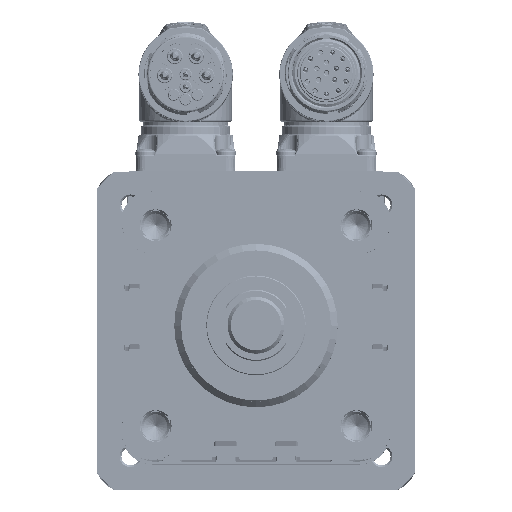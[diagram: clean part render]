
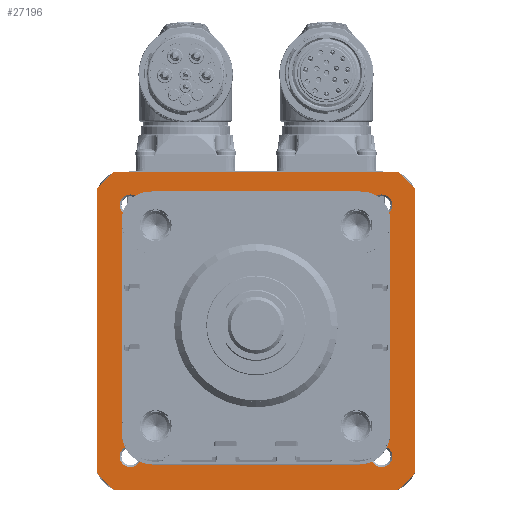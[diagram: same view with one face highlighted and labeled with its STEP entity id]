
A CAD part, top view. The second image highlights one B-rep face of the part: STEP entity #27196.
In plain terms, the highlighted planar face has unit normal (0, 0, 1).
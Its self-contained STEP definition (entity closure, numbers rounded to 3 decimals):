
#25836=DIRECTION('',(-1.,0.,0.));
#25837=VECTOR('',#25836,80.047);
#25838=CARTESIAN_POINT('',(40.024,-44.7,21.));
#25839=LINE('',#25838,#25837);
#25848=DIRECTION('',(0.,1.,0.));
#25849=VECTOR('',#25848,80.047);
#25850=CARTESIAN_POINT('',(-44.7,-40.023,21.));
#25851=LINE('',#25850,#25849);
#25860=DIRECTION('',(1.,0.,0.));
#25861=VECTOR('',#25860,80.048);
#25862=CARTESIAN_POINT('',(-40.024,44.7,21.));
#25863=LINE('',#25862,#25861);
#25872=DIRECTION('',(0.,-1.,0.));
#25873=VECTOR('',#25872,80.049);
#25874=CARTESIAN_POINT('',(44.7,40.024,21.));
#25875=LINE('',#25874,#25873);
#25884=CARTESIAN_POINT('',(0.,0.,21.));
#25885=DIRECTION('',(0.,0.,1.));
#25886=DIRECTION('',(-0.745,-0.667,0.));
#25887=AXIS2_PLACEMENT_3D('',#25884,#25885,#25886);
#25889=CARTESIAN_POINT('',(0.,0.,21.));
#25890=DIRECTION('',(0.,0.,1.));
#25891=DIRECTION('',(-0.667,0.745,0.));
#25892=AXIS2_PLACEMENT_3D('',#25889,#25890,#25891);
#25894=CARTESIAN_POINT('',(0.,0.,21.));
#25895=DIRECTION('',(0.,0.,1.));
#25896=DIRECTION('',(0.745,0.667,0.));
#25897=AXIS2_PLACEMENT_3D('',#25894,#25895,#25896);
#25899=CARTESIAN_POINT('',(0.,0.,21.));
#25900=DIRECTION('',(0.,0.,1.));
#25901=DIRECTION('',(0.667,-0.745,0.));
#25902=AXIS2_PLACEMENT_3D('',#25899,#25900,#25901);
#25904=CARTESIAN_POINT('',(0.,0.,
21.));
#25905=DIRECTION('',(0.,0.,-1.));
#25906=DIRECTION('',(-1.,0.,0.));
#25907=AXIS2_PLACEMENT_3D('',#25904,#25905,#25906);
#25909=CARTESIAN_POINT('',(0.,0.,
21.));
#25910=DIRECTION('',(0.,0.,-1.));
#25911=DIRECTION('',(1.,0.,0.));
#25912=AXIS2_PLACEMENT_3D('',#25909,#25910,#25911);
#25914=CARTESIAN_POINT('',(35.355,-35.355,21.));
#25915=DIRECTION('',(0.,0.,-1.));
#25916=DIRECTION('',(-1.,0.,0.));
#25917=AXIS2_PLACEMENT_3D('',#25914,#25915,#25916);
#25919=CARTESIAN_POINT('',(35.355,-35.355,21.));
#25920=DIRECTION('',(0.,0.,-1.));
#25921=DIRECTION('',(1.,0.,0.));
#25922=AXIS2_PLACEMENT_3D('',#25919,#25920,#25921);
#25924=CARTESIAN_POINT('',(-35.355,-35.355,21.));
#25925=DIRECTION('',(0.,0.,-1.));
#25926=DIRECTION('',(-1.,0.,0.));
#25927=AXIS2_PLACEMENT_3D('',#25924,#25925,#25926);
#25929=CARTESIAN_POINT('',(-35.355,-35.355,21.));
#25930=DIRECTION('',(0.,0.,-1.));
#25931=DIRECTION('',(0.,-1.,0.));
#25932=AXIS2_PLACEMENT_3D('',#25929,#25930,#25931);
#25934=CARTESIAN_POINT('',(-35.355,-35.355,21.));
#25935=DIRECTION('',(0.,0.,-1.));
#25936=DIRECTION('',(1.,0.,0.));
#25937=AXIS2_PLACEMENT_3D('',#25934,#25935,#25936);
#25939=CARTESIAN_POINT('',(-35.355,-35.355,21.));
#25940=DIRECTION('',(0.,0.,-1.));
#25941=DIRECTION('',(0.,1.,0.));
#25942=AXIS2_PLACEMENT_3D('',#25939,#25940,#25941);
#25944=CARTESIAN_POINT('',(-35.355,35.355,21.));
#25945=DIRECTION('',(0.,0.,-1.));
#25946=DIRECTION('',(1.,0.,0.));
#25947=AXIS2_PLACEMENT_3D('',#25944,#25945,#25946);
#25949=CARTESIAN_POINT('',(-35.355,35.355,21.));
#25950=DIRECTION('',(0.,0.,-1.));
#25951=DIRECTION('',(-1.,0.,0.));
#25952=AXIS2_PLACEMENT_3D('',#25949,#25950,#25951);
#25954=CARTESIAN_POINT('',(35.355,35.355,21.));
#25955=DIRECTION('',(0.,0.,-1.));
#25956=DIRECTION('',(-1.,0.,0.));
#25957=AXIS2_PLACEMENT_3D('',#25954,#25955,#25956);
#25959=CARTESIAN_POINT('',(35.355,35.355,21.));
#25960=DIRECTION('',(0.,0.,-1.));
#25961=DIRECTION('',(1.,0.,0.));
#25962=AXIS2_PLACEMENT_3D('',#25959,#25960,#25961);
#25964=CARTESIAN_POINT('',(35.355,35.355,21.));
#25965=DIRECTION('',(0.,0.,-1.));
#25966=DIRECTION('',(0.,1.,0.));
#25967=AXIS2_PLACEMENT_3D('',#25964,#25965,#25966);
#26741=CARTESIAN_POINT('',(-40.024,-44.7,21.));
#26742=VERTEX_POINT('',#26741);
#26743=CARTESIAN_POINT('',(40.024,-44.7,21.));
#26744=VERTEX_POINT('',#26743);
#26745=CARTESIAN_POINT('',(-44.7,-40.023,21.));
#26746=VERTEX_POINT('',#26745);
#26747=CARTESIAN_POINT('',(-44.7,40.023,21.));
#26748=VERTEX_POINT('',#26747);
#26749=CARTESIAN_POINT('',(-40.024,44.7,21.));
#26750=VERTEX_POINT('',#26749);
#26751=CARTESIAN_POINT('',(40.024,44.7,21.));
#26752=VERTEX_POINT('',#26751);
#26753=CARTESIAN_POINT('',(44.7,40.024,21.));
#26754=VERTEX_POINT('',#26753);
#26755=CARTESIAN_POINT('',(44.7,-40.024,21.));
#26756=VERTEX_POINT('',#26755);
#26757=CARTESIAN_POINT('',(32.289,0.,
21.));
#26758=CARTESIAN_POINT('',(-32.289,0.,
21.));
#26759=VERTEX_POINT('',#26757);
#26760=VERTEX_POINT('',#26758);
#26761=CARTESIAN_POINT('',(38.355,-35.355,21.));
#26762=CARTESIAN_POINT('',(32.355,-35.355,21.));
#26763=VERTEX_POINT('',#26761);
#26764=VERTEX_POINT('',#26762);
#26765=CARTESIAN_POINT('',(-32.355,-35.355,21.));
#26766=CARTESIAN_POINT('',(-35.355,-38.355,21.));
#26767=VERTEX_POINT('',#26765);
#26768=VERTEX_POINT('',#26766);
#26769=CARTESIAN_POINT('',(-38.355,-35.355,21.));
#26770=VERTEX_POINT('',#26769);
#26771=CARTESIAN_POINT('',(-35.355,-32.355,21.));
#26772=VERTEX_POINT('',#26771);
#26773=CARTESIAN_POINT('',(-38.355,35.355,21.));
#26774=CARTESIAN_POINT('',(-32.355,35.355,21.));
#26775=VERTEX_POINT('',#26773);
#26776=VERTEX_POINT('',#26774);
#26777=CARTESIAN_POINT('',(38.355,35.355,21.));
#26778=CARTESIAN_POINT('',(32.355,35.355,21.));
#26779=VERTEX_POINT('',#26777);
#26780=VERTEX_POINT('',#26778);
#26781=CARTESIAN_POINT('',(35.355,38.355,21.));
#26782=VERTEX_POINT('',#26781);
#27145=CARTESIAN_POINT('',(0.,0.,21.));
#27146=DIRECTION('',(0.,0.,1.));
#27147=DIRECTION('',(1.,0.,0.));
#27148=AXIS2_PLACEMENT_3D('',#27145,#27146,#27147);
#27149=PLANE('',#27148);
#27150=ORIENTED_EDGE('',*,*,#27041,.T.);
#27151=ORIENTED_EDGE('',*,*,#27056,.F.);
#27152=ORIENTED_EDGE('',*,*,#27070,.T.);
#27153=ORIENTED_EDGE('',*,*,#27084,.F.);
#27154=ORIENTED_EDGE('',*,*,#27098,.T.);
#27155=ORIENTED_EDGE('',*,*,#27112,.F.);
#27156=ORIENTED_EDGE('',*,*,#27126,.T.);
#27157=ORIENTED_EDGE('',*,*,#27139,.F.);
#27158=EDGE_LOOP('',(#27150,#27151,#27152,#27153,#27154,#27155,#27156,#27157));
#27159=FACE_OUTER_BOUND('',#27158,.F.);
#27161=ORIENTED_EDGE('',*,*,#27160,.F.);
#27163=ORIENTED_EDGE('',*,*,#27162,.F.);
#27164=EDGE_LOOP('',(#27161,#27163));
#27165=FACE_BOUND('',#27164,.F.);
#27167=ORIENTED_EDGE('',*,*,#27166,.F.);
#27169=ORIENTED_EDGE('',*,*,#27168,.F.);
#27170=EDGE_LOOP('',(#27167,#27169));
#27171=FACE_BOUND('',#27170,.F.);
#27173=ORIENTED_EDGE('',*,*,#27172,.F.);
#27175=ORIENTED_EDGE('',*,*,#27174,.F.);
#27177=ORIENTED_EDGE('',*,*,#27176,.F.);
#27179=ORIENTED_EDGE('',*,*,#27178,.F.);
#27180=EDGE_LOOP('',(#27173,#27175,#27177,#27179));
#27181=FACE_BOUND('',#27180,.F.);
#27183=ORIENTED_EDGE('',*,*,#27182,.F.);
#27185=ORIENTED_EDGE('',*,*,#27184,.F.);
#27186=EDGE_LOOP('',(#27183,#27185));
#27187=FACE_BOUND('',#27186,.F.);
#27189=ORIENTED_EDGE('',*,*,#27188,.F.);
#27191=ORIENTED_EDGE('',*,*,#27190,.F.);
#27193=ORIENTED_EDGE('',*,*,#27192,.F.);
#27194=EDGE_LOOP('',(#27189,#27191,#27193));
#27195=FACE_BOUND('',#27194,.F.);
#27196=ADVANCED_FACE('',(#27159,#27165,#27171,#27181,#27187,#27195),#27149,.T.);
#25888=CIRCLE('',#25887,60.);
#25893=CIRCLE('',#25892,60.);
#25898=CIRCLE('',#25897,60.);
#25903=CIRCLE('',#25902,60.);
#25908=CIRCLE('',#25907,32.289);
#25913=CIRCLE('',#25912,32.289);
#25918=CIRCLE('',#25917,3.);
#25923=CIRCLE('',#25922,3.);
#25928=CIRCLE('',#25927,3.);
#25933=CIRCLE('',#25932,3.);
#25938=CIRCLE('',#25937,3.);
#25943=CIRCLE('',#25942,3.);
#25948=CIRCLE('',#25947,3.);
#25953=CIRCLE('',#25952,3.);
#25958=CIRCLE('',#25957,3.);
#25963=CIRCLE('',#25962,3.);
#25968=CIRCLE('',#25967,3.);
#27041=EDGE_CURVE('',#26744,#26742,#25839,.T.);
#27056=EDGE_CURVE('',#26746,#26742,#25888,.T.);
#27070=EDGE_CURVE('',#26746,#26748,#25851,.T.);
#27084=EDGE_CURVE('',#26750,#26748,#25893,.T.);
#27098=EDGE_CURVE('',#26750,#26752,#25863,.T.);
#27112=EDGE_CURVE('',#26754,#26752,#25898,.T.);
#27126=EDGE_CURVE('',#26754,#26756,#25875,.T.);
#27139=EDGE_CURVE('',#26744,#26756,#25903,.T.);
#27160=EDGE_CURVE('',#26760,#26759,#25908,.T.);
#27162=EDGE_CURVE('',#26759,#26760,#25913,.T.);
#27166=EDGE_CURVE('',#26764,#26763,#25918,.T.);
#27168=EDGE_CURVE('',#26763,#26764,#25923,.T.);
#27172=EDGE_CURVE('',#26770,#26772,#25928,.T.);
#27174=EDGE_CURVE('',#26768,#26770,#25933,.T.);
#27176=EDGE_CURVE('',#26767,#26768,#25938,.T.);
#27178=EDGE_CURVE('',#26772,#26767,#25943,.T.);
#27182=EDGE_CURVE('',#26776,#26775,#25948,.T.);
#27184=EDGE_CURVE('',#26775,#26776,#25953,.T.);
#27188=EDGE_CURVE('',#26780,#26782,#25958,.T.);
#27190=EDGE_CURVE('',#26779,#26780,#25963,.T.);
#27192=EDGE_CURVE('',#26782,#26779,#25968,.T.);
